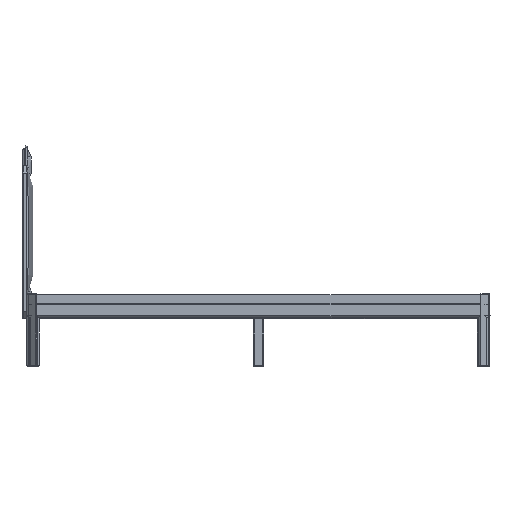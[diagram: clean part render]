
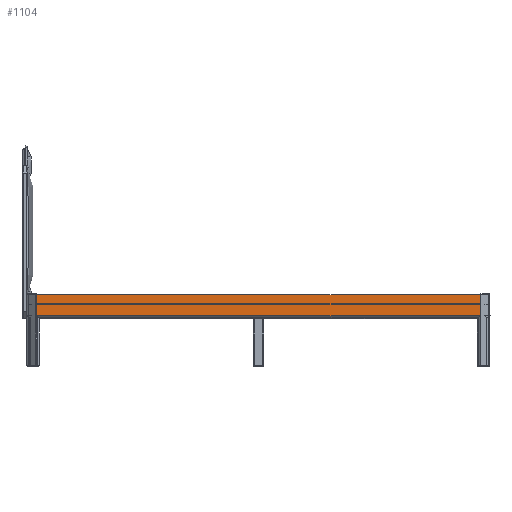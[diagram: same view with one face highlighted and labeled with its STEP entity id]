
A CAD part, left-side view. The second image highlights one B-rep face of the part: STEP entity #1104.
In plain terms, the highlighted planar face has unit normal (-1, 0, 0).
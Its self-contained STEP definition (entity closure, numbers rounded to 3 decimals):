
#1104=ADVANCED_FACE('',(#2810),#25247,.T.);
#2810=FACE_OUTER_BOUND('',#4520,.T.);
#4520=EDGE_LOOP('',(#7228,#7229,#7230,#7231,#7232,#7233));
#7228=ORIENTED_EDGE('',*,*,#14906,.F.);
#7229=ORIENTED_EDGE('',*,*,#14919,.F.);
#7230=ORIENTED_EDGE('',*,*,#14895,.F.);
#7231=ORIENTED_EDGE('',*,*,#14887,.F.);
#7232=ORIENTED_EDGE('',*,*,#14917,.F.);
#7233=ORIENTED_EDGE('',*,*,#14899,.F.);
#14887=EDGE_CURVE('',#22961,#22962,#21031,.T.);
#14895=EDGE_CURVE('',#22962,#22970,#21039,.T.);
#14899=EDGE_CURVE('',#22974,#22975,#21043,.T.);
#14906=EDGE_CURVE('',#22983,#22974,#21050,.T.);
#14917=EDGE_CURVE('',#22975,#22961,#18794,.T.);
#14919=EDGE_CURVE('',#22970,#22983,#21054,.T.);
#18794=(
BOUNDED_CURVE()
B_SPLINE_CURVE(1,(#44718,#44719),.UNSPECIFIED.,.F.,.F.)
B_SPLINE_CURVE_WITH_KNOTS((2,2),(0.,2118.4),.UNSPECIFIED.)
CURVE()
GEOMETRIC_REPRESENTATION_ITEM()
RATIONAL_B_SPLINE_CURVE((1.,1.))
REPRESENTATION_ITEM('')
);
#21031=B_SPLINE_CURVE_WITH_KNOTS('',1,(#44594,#44595),.UNSPECIFIED.,.F.,
 .F.,(2,2),(0.,100.963),.UNSPECIFIED.);
#21039=B_SPLINE_CURVE_WITH_KNOTS('',1,(#44624,#44625),.UNSPECIFIED.,.F.,
 .F.,(2,2),(0.,0.017),.UNSPECIFIED.);
#21043=B_SPLINE_CURVE_WITH_KNOTS('',1,(#44646,#44647),.UNSPECIFIED.,.F.,
 .F.,(2,2),(0.,100.963),.UNSPECIFIED.);
#21050=B_SPLINE_CURVE_WITH_KNOTS('',1,(#44688,#44689),.UNSPECIFIED.,.F.,
 .F.,(2,2),(0.,0.017),.UNSPECIFIED.);
#21054=B_SPLINE_CURVE_WITH_KNOTS('',1,(#44722,#44723),.UNSPECIFIED.,.F.,
 .F.,(2,2),(0.,2118.376),.UNSPECIFIED.);
#22961=VERTEX_POINT('',#44569);
#22962=VERTEX_POINT('',#44570);
#22970=VERTEX_POINT('',#44578);
#22974=VERTEX_POINT('',#44582);
#22975=VERTEX_POINT('',#44583);
#22983=VERTEX_POINT('',#44591);
#25247=PLANE('',#26446);
#26446=AXIS2_PLACEMENT_3D('',#44563,#27834,$);
#27834=DIRECTION('',(-1.,0.,0.));
#44563=CARTESIAN_POINT('',(-3705.5,1174.552,227.32));
#44569=CARTESIAN_POINT('',(-3705.5,-1155.7,338.404));
#44570=CARTESIAN_POINT('',(-3705.5,-1155.7,237.441));
#44578=CARTESIAN_POINT('',(-3705.5,-1155.688,237.429));
#44582=CARTESIAN_POINT('',(-3705.5,962.7,237.441));
#44583=CARTESIAN_POINT('',(-3705.5,962.7,338.404));
#44591=CARTESIAN_POINT('',(-3705.5,962.688,237.429));
#44594=CARTESIAN_POINT('',(-3705.5,-1155.7,338.404));
#44595=CARTESIAN_POINT('',(-3705.5,-1155.7,237.441));
#44624=CARTESIAN_POINT('',(-3705.5,-1155.7,237.441));
#44625=CARTESIAN_POINT('',(-3705.5,-1155.688,237.429));
#44646=CARTESIAN_POINT('',(-3705.5,962.7,237.441));
#44647=CARTESIAN_POINT('',(-3705.5,962.7,338.404));
#44688=CARTESIAN_POINT('',(-3705.5,962.688,237.429));
#44689=CARTESIAN_POINT('',(-3705.5,962.7,237.441));
#44718=CARTESIAN_POINT('',(-3705.5,962.7,338.404));
#44719=CARTESIAN_POINT('',(-3705.5,-1155.7,338.404));
#44722=CARTESIAN_POINT('',(-3705.5,-1155.688,237.429));
#44723=CARTESIAN_POINT('',(-3705.5,962.688,237.429));
